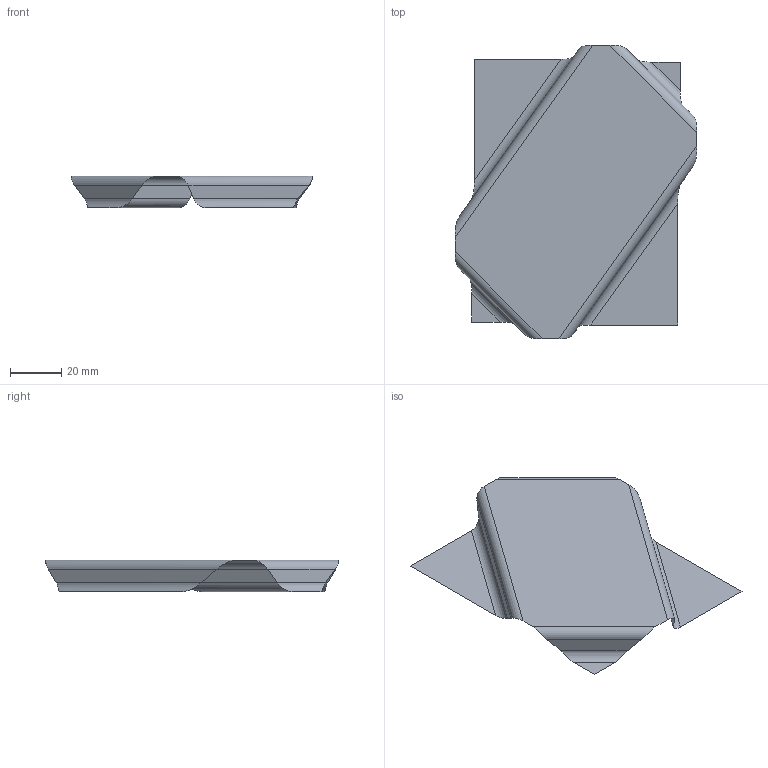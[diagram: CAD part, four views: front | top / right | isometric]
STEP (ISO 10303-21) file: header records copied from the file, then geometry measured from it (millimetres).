
FILE_DESCRIPTION(('CATIA V5 STEP Exchange'),'2;1');
FILE_NAME('C:\_Andres\UNIVERSIDAD\IQS\ASIGNATURAS\DAO\EXF\EXF-15161c\1original\Casals_Vilar_Ej03-chapa_v4.stp','2016-03-04T16:55:40+00:00',('none'),('none'),'CATIA Version 5 Release 20 SP 1 (IN-10)','CATIA V5 STEP AP203','none');
FILE_SCHEMA(('CONFIG_CONTROL_DESIGN'));
Length unit declared in the file: millimetre
Products named in the file (1): Casals_Vilar_Ej03-chapa_v4
Bounding box: 94.01 x 114.01 x 12.29 mm (x, y, z)
Surface area: 10753.2 mm2 (no closed solid volume)
Topology: 0 solids, 1 shells, 17 faces, 52 edges, 36 vertices
Faces by surface type: plane 9, cylinder 8
Entity records: 622 total; most frequent: CARTESIAN_POINT 203, ORIENTED_EDGE 68, DIRECTION 56, EDGE_CURVE 52, VERTEX_POINT 36, B_SPLINE_CURVE_WITH_KNOTS 32, VECTOR 20, LINE 20
